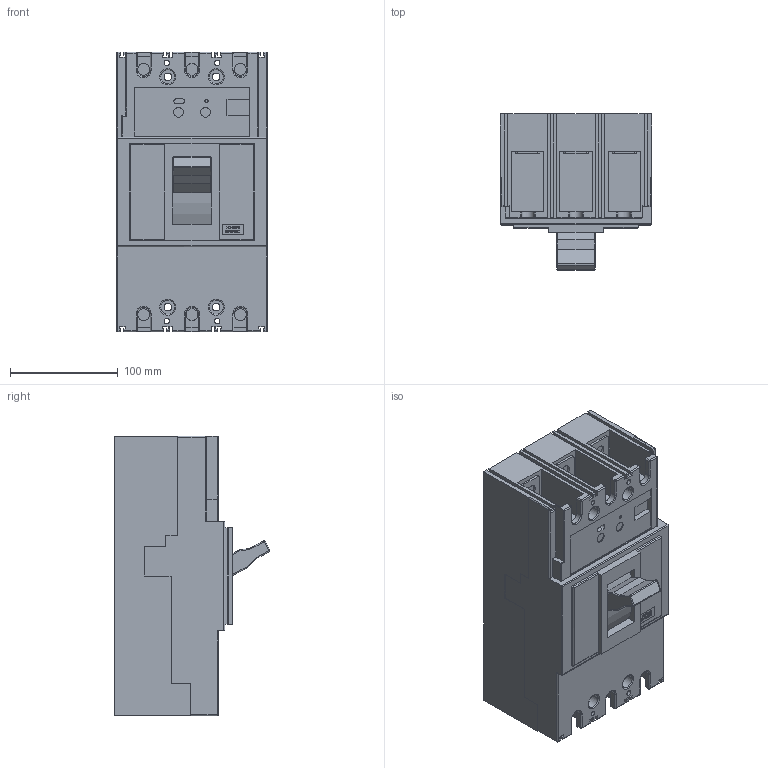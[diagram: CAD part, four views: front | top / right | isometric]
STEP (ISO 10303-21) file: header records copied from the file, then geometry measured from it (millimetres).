
FILE_DESCRIPTION((''),'2;1');
FILE_NAME('S400NE3250','2012-09-20T',('cmahecha'),(''),'PRO/ENGINEER BY PARAMETRIC TECHNOLOGY CORPORATION, 2010280','PRO/ENGINEER BY PARAMETRIC TECHNOLOGY CORPORATION, 2010280','');
FILE_SCHEMA(('CONFIG_CONTROL_DESIGN'));
Length unit declared in the file: millimetre
Products named in the file (1): S400NE3250
Bounding box: 140.4 x 144.93 x 260 mm (x, y, z)
Volume: 3304849.7 mm3; surface area: 221189.7 mm2
Topology: 1 solids, 1 shells, 747 faces, 2030 edges, 1324 vertices
Faces by surface type: plane 577, cylinder 142, sphere 14, torus 14
Entity records: 23370 total; most frequent: CARTESIAN_POINT 4291, ORIENTED_EDGE 4060, DIRECTION 3744, EDGE_CURVE 2030, VECTOR 1750, LINE 1750, VERTEX_POINT 1324, AXIS2_PLACEMENT_3D 997
